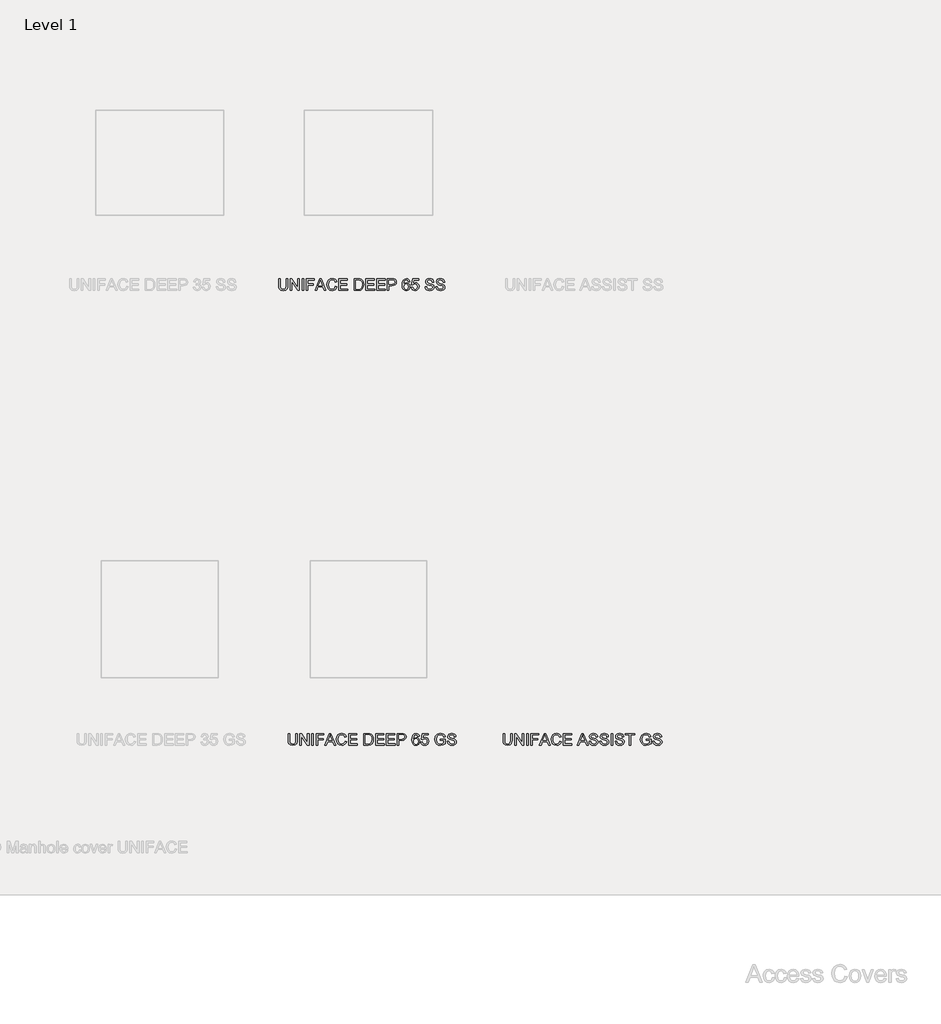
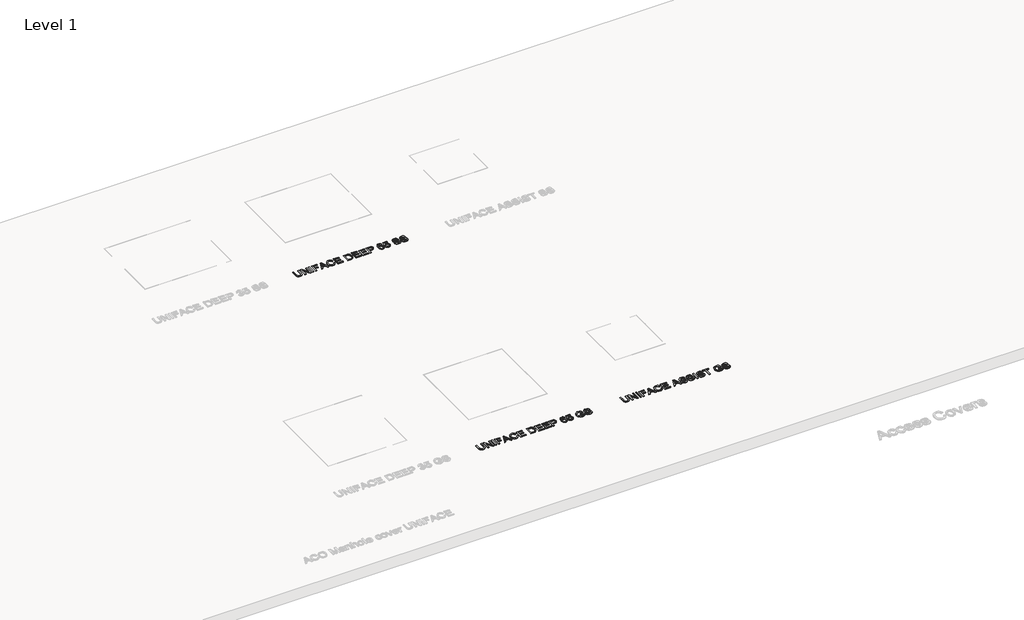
# One storey, part 6 of 9: 3 proxies.
"""IFC4 building model written with IfcOpenShell, lengths in millimetres."""

from ifc_helpers import new_model, si_unit, origin, origin_with_axes, place, context, project, spatial, polyline, outline, extrude, element, save

model = new_model("IFC4")

# Units and contexts
model_context = context("Model", 3, world=origin())
ifc_project = project(units=[si_unit("LENGTHUNIT", "METRE", prefix="MILLI")], contexts=[model_context])

# Site, building, storey
site = spatial("IfcSite", under=ifc_project)
building = spatial("IfcBuilding", under=site)
storey = spatial("IfcBuildingStorey", under=building, Name="Level 1", Elevation=0.0)

# Proxies
placement = place(None, origin())
element("IfcBuildingElementProxy", 1, Name="100mm ACO", ObjectType="100mm ACO", at=placement, inside=storey, context=model_context, shape_type="SweptSolid", body=[
    extrude(outline(polyline([(9234.888236, -15767.3956492), (9234.0442111, -15781.7586247), (9229.5621478, -15795.3212318), (9217.7457991, -15806.9338503), (9195.9466731, -15811.5759873), (9174.4967988, -15807.4577279), (9162.5494807, -15796.8055515), (9157.7036136, -15783.1992879), (9156.6558585, -15767.3956492), (9156.6558585, -15709.1288264), (9169.6945881, -15709.1288264), (9169.6945881, -15767.7449008), (9170.9897298, -15783.5048831), (9177.8146898, -15795.2630232), (9184.850656, -15799.1157058), (9194.898918, -15800.3999334), (9212.4342631, -15796.3107783), (9220.0741437, -15785.3821109), (9221.8495064, -15767.7449008), (9221.8495064, -15709.1288264), (9234.888236, -15709.1288264), (9234.888236, -15767.3956492)])), origin_with_axes(), (0.0, 0.0, 1.0), 10.0),
    extrude(outline(polyline([(9335.4727213, -15809.7133117), (9321.5026539, -15809.7133117), (9270.5410122, -15731.0152653), (9270.5410122, -15809.7133117), (9257.2403438, -15809.7133117), (9257.2403438, -15709.1288264), (9271.2395156, -15709.1288264), (9322.172053, -15787.7686641), (9322.172053, -15709.1288264), (9335.4727213, -15709.1288264), (9335.4727213, -15809.7133117)])), origin_with_axes(), (0.0, 0.0, 1.0), 10.0),
    extrude(outline(polyline([(9372.7262344, -15809.7133117), (9359.6875048, -15809.7133117), (9359.6875048, -15709.1288264), (9372.7262344, -15709.1288264), (9372.7262344, -15809.7133117)])), origin_with_axes(), (0.0, 0.0, 1.0), 10.0),
    extrude(outline(polyline([(9463.9973414, -15720.3048803), (9409.9797475, -15720.3048803), (9409.9797475, -15751.9703664), (9456.5466388, -15751.9703664), (9456.5466388, -15763.1464203), (9409.9797475, -15763.1464203), (9409.9797475, -15809.7133117), (9396.9410179, -15809.7133117), (9396.9410179, -15709.1288264), (9463.9973414, -15709.1288264), (9463.9973414, -15720.3048803)])), origin_with_axes(), (0.0, 0.0, 1.0), 10.0),
    extrude(outline(polyline([(9565.0474957, -15809.7133117), (9551.1647412, -15809.7133117), (9539.1155581, -15779.9105012), (9496.4195396, -15779.9105012), (9484.8360253, -15809.7133117), (9470.9823752, -15809.7133117), (9510.0694596, -15709.1288264), (9524.3305701, -15709.1288264), (9565.0474957, -15809.7133117)]), holes=[polyline([(9534.5752862, -15768.7344473), (9520.0667891, -15731.8592902), (9517.0835976, -15720.1302544), (9512.3978041, -15738.8152196), (9500.7851856, -15768.7344473), (9534.5752862, -15768.7344473)])]), origin_with_axes(), (0.0, 0.0, 1.0), 10.0),
    extrude(outline(polyline([(9659.5782851, -15777.6985739), (9653.6300924, -15792.6108932), (9644.4585976, -15803.1793947), (9632.6022305, -15809.4768392), (9618.5994207, -15811.5759873), (9597.5715589, -15807.6978384), (9583.1503747, -15796.0633916), (9574.8119907, -15778.9718873), (9572.0325294, -15758.7225656), (9575.2958498, -15737.2108447), (9585.0858111, -15720.9306229), (9600.0054065, -15710.6822687), (9618.6576293, -15707.2661507), (9632.0492487, -15709.0888079), (9643.3526339, -15714.5567796), (9652.0730119, -15723.5390964), (9657.7156095, -15735.9047889), (9644.6768799, -15738.9316368), (9634.7668633, -15723.5791148), (9618.1628561, -15718.4422046), (9603.8580892, -15721.1670954), (9593.4824037, -15729.3417676), (9587.1740451, -15742.1003683), (9585.071259, -15758.5770441), (9587.2977385, -15777.047365), (9593.9771769, -15790.0824565), (9604.2364452, -15797.8205642), (9617.202414, -15800.3999334), (9627.8327622, -15798.7737302), (9636.2657351, -15793.8951208), (9642.5013329, -15785.7495528), (9646.5395555, -15774.3224742), (9659.5782851, -15777.6985739)])), origin_with_axes(), (0.0, 0.0, 1.0), 10.0),
    extrude(outline(polyline([(9750.8493922, -15809.7133117), (9676.342366, -15809.7133117), (9676.342366, -15709.1288264), (9748.9867165, -15709.1288264), (9748.9867165, -15720.3048803), (9689.3810956, -15720.3048803), (9689.3810956, -15751.9703664), (9745.2613652, -15751.9703664), (9745.2613652, -15763.1464203), (9689.3810956, -15763.1464203), (9689.3810956, -15798.5372577), (9750.8493922, -15798.5372577), (9750.8493922, -15809.7133117)])), origin_with_axes(), (0.0, 0.0, 1.0), 10.0),
    extrude(outline(polyline([(9891.0157351, -15809.7133117), (9877.1329807, -15809.7133117), (9865.0837975, -15779.9105012), (9822.387779, -15779.9105012), (9810.8042648, -15809.7133117), (9796.9506146, -15809.7133117), (9836.037699, -15709.1288264), (9850.2988095, -15709.1288264), (9891.0157351, -15809.7133117)]), holes=[polyline([(9860.5435256, -15768.7344473), (9846.0350285, -15731.8592902), (9843.051837, -15720.1302544), (9838.3660436, -15738.8152196), (9826.7534251, -15768.7344473), (9860.5435256, -15768.7344473)])]), origin_with_axes(), (0.0, 0.0, 1.0), 10.0),
    extrude(outline(polyline([(9959.4690654, -15738.9316368), (9957.4463161, -15729.9857004), (9952.9497006, -15723.5791148), (9945.9792191, -15719.7264322), (9936.5348714, -15718.4422046), (9920.8185456, -15722.4440468), (9916.2782737, -15727.3590367), (9914.7648497, -15734.1003218), (9919.2614652, -15744.2140686), (9937.5535222, -15750.5442553), (9957.5045247, -15756.0595215), (9970.7324323, -15765.0382003), (9974.8579678, -15772.1614794), (9976.2331463, -15781.3657166), (9973.7119857, -15793.2730162), (9966.1485039, -15802.9756646), (9954.5322473, -15809.4259066), (9939.8527624, -15811.5759873), (9921.7644356, -15809.1894341), (9908.8857797, -15802.0297746), (9901.0276168, -15791.072003), (9898.0007688, -15777.2911136), (9911.0394984, -15776.1851499), (9913.6843523, -15787.1247313), (9919.9308642, -15794.6227284), (9928.818592, -15798.9556322), (9939.3870935, -15800.3999334), (9956.6168433, -15795.6413792), (9961.5500234, -15790.035162), (9963.1944167, -15782.733619), (9961.4954528, -15775.3629532), (9956.398561, -15770.3060799), (9932.984146, -15762.8117208), (9918.6902931, -15758.4460747), (9909.0458534, -15752.5379004), (9903.5560535, -15744.8652774), (9901.7261202, -15735.2062855), (9904.0217224, -15724.1466488), (9910.908529, -15715.1825222), (9921.7535215, -15709.2452436), (9935.923681, -15707.2661507), (9950.5704235, -15709.2597957), (9962.0302445, -15715.2407308), (9969.5828121, -15724.8888086), (9972.507795, -15737.8838818), (9959.4690654, -15738.9316368)])), origin_with_axes(), (0.0, 0.0, 1.0), 10.0),
    extrude(outline(polyline([(10052.6028481, -15738.9316368), (10050.5800988, -15729.9857004), (10046.0834833, -15723.5791148), (10039.1130018, -15719.7264322), (10029.6686541, -15718.4422046), (10013.9523283, -15722.4440468), (10009.4120564, -15727.3590367), (10007.8986324, -15734.1003218), (10012.3952479, -15744.2140686), (10030.6873049, -15750.5442553), (10050.6383074, -15756.0595215), (10063.866215, -15765.0382003), (10067.9917505, -15772.1614794), (10069.366929, -15781.3657166), (10066.8457684, -15793.2730162), (10059.2822866, -15802.9756646), (10047.66603, -15809.4259066), (10032.9865451, -15811.5759873), (10014.8982183, -15809.1894341), (10002.0195624, -15802.0297746), (9994.1613995, -15791.072003), (9991.1345515, -15777.2911136), (10004.1732811, -15776.1851499), (10006.818135, -15787.1247313), (10013.0646469, -15794.6227284), (10021.9523747, -15798.9556322), (10032.5208762, -15800.3999334), (10049.750626, -15795.6413792), (10054.6838061, -15790.035162), (10056.3281994, -15782.733619), (10054.6292355, -15775.3629532), (10049.5323437, -15770.3060799), (10026.1179287, -15762.8117208), (10011.8240759, -15758.4460747), (10002.1796361, -15752.5379004), (9996.6898362, -15744.8652774), (9994.8599029, -15735.2062855), (9997.1555051, -15724.1466488), (10004.0423117, -15715.1825222), (10014.8873042, -15709.2452436), (10029.0574637, -15707.2661507), (10043.7042062, -15709.2597957), (10055.1640272, -15715.2407308), (10062.7165948, -15724.8888086), (10065.6415777, -15737.8838818), (10052.6028481, -15738.9316368)])), origin_with_axes(), (0.0, 0.0, 1.0), 10.0),
    extrude(outline(polyline([(10102.8950908, -15809.7133117), (10089.8563612, -15809.7133117), (10089.8563612, -15709.1288264), (10102.8950908, -15709.1288264), (10102.8950908, -15809.7133117)])), origin_with_axes(), (0.0, 0.0, 1.0), 10.0),
    extrude(outline(polyline([(10184.8528196, -15738.9316368), (10182.8300702, -15729.9857004), (10178.3334548, -15723.5791148), (10171.3629732, -15719.7264322), (10161.9186256, -15718.4422046), (10146.2022997, -15722.4440468), (10141.6620278, -15727.3590367), (10140.1486039, -15734.1003218), (10144.6452193, -15744.2140686), (10162.9372763, -15750.5442553), (10182.8882788, -15756.0595215), (10196.1161864, -15765.0382003), (10200.2417219, -15772.1614794), (10201.6169005, -15781.3657166), (10199.0957399, -15793.2730162), (10191.532258, -15802.9756646), (10179.9160015, -15809.4259066), (10165.2365166, -15811.5759873), (10147.1481897, -15809.1894341), (10134.2695338, -15802.0297746), (10126.4113709, -15791.072003), (10123.384523, -15777.2911136), (10136.4232526, -15776.1851499), (10139.0681065, -15787.1247313), (10145.3146184, -15794.6227284), (10154.2023462, -15798.9556322), (10164.7708477, -15800.3999334), (10182.0005975, -15795.6413792), (10186.9337775, -15790.035162), (10188.5781709, -15782.733619), (10186.879207, -15775.3629532), (10181.7823152, -15770.3060799), (10158.3679001, -15762.8117208), (10144.0740473, -15758.4460747), (10134.4296075, -15752.5379004), (10128.9398076, -15744.8652774), (10127.1098743, -15735.2062855), (10129.4054765, -15724.1466488), (10136.2922832, -15715.1825222), (10147.1372756, -15709.2452436), (10161.3074351, -15707.2661507), (10175.9541777, -15709.2597957), (10187.4139986, -15715.2407308), (10194.9665663, -15724.8888086), (10197.8915491, -15737.8838818), (10184.8528196, -15738.9316368)])), origin_with_axes(), (0.0, 0.0, 1.0), 10.0),
    extrude(outline(polyline([(10291.0253319, -15720.3048803), (10257.4971701, -15720.3048803), (10257.4971701, -15809.7133117), (10244.4584405, -15809.7133117), (10244.4584405, -15720.3048803), (10210.9302787, -15720.3048803), (10210.9302787, -15709.1288264), (10291.0253319, -15709.1288264), (10291.0253319, -15720.3048803)])), origin_with_axes(), (0.0, 0.0, 1.0), 10.0),
    extrude(outline(polyline([(10432.5886816, -15796.2962261), (10413.0669676, -15807.756047), (10391.8135473, -15811.5759873), (10371.313201, -15808.039814), (10355.2148811, -15797.4312941), (10344.7919012, -15780.9582563), (10341.3175745, -15759.8285293), (10346.9783622, -15733.168984), (10353.9815861, -15722.2184885), (10363.6696824, -15714.0474542), (10375.9298717, -15708.9614766), (10390.649375, -15707.2661507), (10405.5726085, -15709.1506546), (10417.2216074, -15714.8041662), (10425.6036479, -15724.2194096), (10430.7260059, -15737.3891085), (10417.6872763, -15740.7943125), (10413.9073544, -15731.0334555), (10407.9809899, -15724.0447837), (10399.9081827, -15719.8428494), (10389.6889329, -15718.4422046), (10374.3400489, -15721.2653224), (10363.2767742, -15729.7346758), (10356.5864216, -15742.7734054), (10354.3563041, -15759.3046518), (10358.7656066, -15782.0496678), (10371.8479927, -15795.7577964), (10390.7075836, -15800.3999334), (10405.6599214, -15797.5768156), (10419.549952, -15789.1074622), (10419.549952, -15768.7344473), (10389.7471415, -15768.7344473), (10389.7471415, -15757.5583934), (10432.5886816, -15757.5583934), (10432.5886816, -15796.2962261)])), origin_with_axes(), (0.0, 0.0, 1.0), 10.0),
    extrude(outline(polyline([(10510.821059, -15738.9316368), (10508.7983097, -15729.9857004), (10504.3016942, -15723.5791148), (10497.3312127, -15719.7264322), (10487.886865, -15718.4422046), (10472.1705392, -15722.4440468), (10467.6302673, -15727.3590367), (10466.1168433, -15734.1003218), (10470.6134588, -15744.2140686), (10488.9055158, -15750.5442553), (10508.8565183, -15756.0595215), (10522.0844259, -15765.0382003), (10526.2099614, -15772.1614794), (10527.5851399, -15781.3657166), (10525.0639793, -15793.2730162), (10517.5004975, -15802.9756646), (10505.8842409, -15809.4259066), (10491.204756, -15811.5759873), (10473.1164292, -15809.1894341), (10460.2377733, -15802.0297746), (10452.3796104, -15791.072003), (10449.3527624, -15777.2911136), (10462.391492, -15776.1851499), (10465.0363459, -15787.1247313), (10471.2828578, -15794.6227284), (10480.1705856, -15798.9556322), (10490.7390871, -15800.3999334), (10507.9688369, -15795.6413792), (10512.902017, -15790.035162), (10514.5464103, -15782.733619), (10512.8474464, -15775.3629532), (10507.7505546, -15770.3060799), (10484.3361396, -15762.8117208), (10470.0422868, -15758.4460747), (10460.397847, -15752.5379004), (10454.9080471, -15744.8652774), (10453.0781138, -15735.2062855), (10455.373716, -15724.1466488), (10462.2605226, -15715.1825222), (10473.1055151, -15709.2452436), (10487.2756746, -15707.2661507), (10501.9224171, -15709.2597957), (10513.3822381, -15715.2407308), (10520.9348057, -15724.8888086), (10523.8597886, -15737.8838818), (10510.821059, -15738.9316368)])), origin_with_axes(), (0.0, 0.0, 1.0), 10.0),
])
element("IfcBuildingElementProxy", 2, Name="100mm ACO", ObjectType="100mm ACO", at=placement, inside=storey, context=model_context, shape_type="SweptSolid", body=[
    extrude(outline(polyline([(7300.2115281, -11847.3956492), (7299.3675032, -11861.7586247), (7294.8854399, -11875.3212318), (7283.0690912, -11886.9338503), (7261.2699652, -11891.5759873), (7239.8200909, -11887.4577279), (7227.8727728, -11876.8055515), (7223.0269057, -11863.1992879), (7221.9791507, -11847.3956492), (7221.9791507, -11789.1288264), (7235.0178802, -11789.1288264), (7235.0178802, -11847.7449008), (7236.3130219, -11863.5048831), (7243.1379819, -11875.2630232), (7250.1739482, -11879.1157058), (7260.2222102, -11880.3999334), (7277.7575552, -11876.3107783), (7285.3974358, -11865.3821109), (7287.1727985, -11847.7449008), (7287.1727985, -11789.1288264), (7300.2115281, -11789.1288264), (7300.2115281, -11847.3956492)])), origin_with_axes(), (0.0, 0.0, 1.0), 10.0),
    extrude(outline(polyline([(7400.7960134, -11889.7133117), (7386.825946, -11889.7133117), (7335.8643043, -11811.0152653), (7335.8643043, -11889.7133117), (7322.563636, -11889.7133117), (7322.563636, -11789.1288264), (7336.5628077, -11789.1288264), (7387.4953451, -11867.7686641), (7387.4953451, -11789.1288264), (7400.7960134, -11789.1288264), (7400.7960134, -11889.7133117)])), origin_with_axes(), (0.0, 0.0, 1.0), 10.0),
    extrude(outline(polyline([(7438.0495265, -11889.7133117), (7425.010797, -11889.7133117), (7425.010797, -11789.1288264), (7438.0495265, -11789.1288264), (7438.0495265, -11889.7133117)])), origin_with_axes(), (0.0, 0.0, 1.0), 10.0),
    extrude(outline(polyline([(7529.3206336, -11800.3048803), (7475.3030396, -11800.3048803), (7475.3030396, -11831.9703664), (7521.869931, -11831.9703664), (7521.869931, -11843.1464203), (7475.3030396, -11843.1464203), (7475.3030396, -11889.7133117), (7462.26431, -11889.7133117), (7462.26431, -11789.1288264), (7529.3206336, -11789.1288264), (7529.3206336, -11800.3048803)])), origin_with_axes(), (0.0, 0.0, 1.0), 10.0),
    extrude(outline(polyline([(7630.3707878, -11889.7133117), (7616.4880333, -11889.7133117), (7604.4388502, -11859.9105012), (7561.7428317, -11859.9105012), (7550.1593175, -11889.7133117), (7536.3056673, -11889.7133117), (7575.3927517, -11789.1288264), (7589.6538622, -11789.1288264), (7630.3707878, -11889.7133117)]), holes=[polyline([(7599.8985783, -11848.7344473), (7585.3900812, -11811.8592902), (7582.4068897, -11800.1302544), (7577.7210963, -11818.8152196), (7566.1084777, -11848.7344473), (7599.8985783, -11848.7344473)])]), origin_with_axes(), (0.0, 0.0, 1.0), 10.0),
    extrude(outline(polyline([(7724.9015773, -11857.6985739), (7718.9533845, -11872.6108932), (7709.7818897, -11883.1793947), (7697.9255226, -11889.4768392), (7683.9227129, -11891.5759873), (7662.894851, -11887.6978384), (7648.4736668, -11876.0633916), (7640.1352828, -11858.9718873), (7637.3558215, -11838.7225656), (7640.6191419, -11817.2108447), (7650.4091032, -11800.9306229), (7665.3286987, -11790.6822687), (7683.9809215, -11787.2661507), (7697.3725408, -11789.0888079), (7708.675926, -11794.5567796), (7717.3963041, -11803.5390964), (7723.0389016, -11815.9047889), (7710.000172, -11818.9316368), (7700.0901555, -11803.5791148), (7683.4861483, -11798.4422046), (7669.1813813, -11801.1670954), (7658.8056958, -11809.3417676), (7652.4973373, -11822.1003683), (7650.3945511, -11838.5770441), (7652.6210306, -11857.047365), (7659.3004691, -11870.0824565), (7669.5597373, -11877.8205642), (7682.5257061, -11880.3999334), (7693.1560543, -11878.7737302), (7701.5890273, -11873.8951208), (7707.8246251, -11865.7495528), (7711.8628477, -11854.3224742), (7724.9015773, -11857.6985739)])), origin_with_axes(), (0.0, 0.0, 1.0), 10.0),
    extrude(outline(polyline([(7816.1726843, -11889.7133117), (7741.6656581, -11889.7133117), (7741.6656581, -11789.1288264), (7814.3100086, -11789.1288264), (7814.3100086, -11800.3048803), (7754.7043877, -11800.3048803), (7754.7043877, -11831.9703664), (7810.5846573, -11831.9703664), (7810.5846573, -11843.1464203), (7754.7043877, -11843.1464203), (7754.7043877, -11878.5372577), (7816.1726843, -11878.5372577), (7816.1726843, -11889.7133117)])), origin_with_axes(), (0.0, 0.0, 1.0), 10.0),
    extrude(outline(polyline([(7873.9156296, -11789.1288264), (7908.1422947, -11789.1288264), (7923.6257861, -11790.0601642), (7936.0242209, -11794.5858839), (7946.3708021, -11804.4959005), (7953.3412836, -11819.0043976), (7955.8733584, -11838.8680872), (7953.2685229, -11859.1210469), (7945.4540164, -11875.4085447), (7931.2874949, -11886.1371199), (7909.6266144, -11889.7133117), (7873.9156296, -11889.7133117), (7873.9156296, -11789.1288264)]), holes=[polyline([(7886.9543592, -11878.5372577), (7908.4042335, -11878.5372577), (7920.1187171, -11877.6932328), (7930.5817155, -11873.1384088), (7939.3566641, -11860.9728084), (7942.8346288, -11838.5770441), (7941.4958307, -11824.1995164), (7936.5772028, -11812.0193639), (7928.355236, -11803.972023), (7919.3037965, -11800.8578621), (7907.9967732, -11800.3048803), (7886.9543592, -11800.3048803), (7886.9543592, -11878.5372577)])]), origin_with_axes(), (0.0, 0.0, 1.0), 10.0),
    extrude(outline(polyline([(8049.0071411, -11889.7133117), (7974.5001149, -11889.7133117), (7974.5001149, -11789.1288264), (8047.1444654, -11789.1288264), (8047.1444654, -11800.3048803), (7987.5388445, -11800.3048803), (7987.5388445, -11831.9703664), (8043.4191141, -11831.9703664), (8043.4191141, -11843.1464203), (7987.5388445, -11843.1464203), (7987.5388445, -11878.5372577), (8049.0071411, -11878.5372577), (8049.0071411, -11889.7133117)])), origin_with_axes(), (0.0, 0.0, 1.0), 10.0),
    extrude(outline(polyline([(8142.1409238, -11889.7133117), (8067.6338976, -11889.7133117), (8067.6338976, -11789.1288264), (8140.2782481, -11789.1288264), (8140.2782481, -11800.3048803), (8080.6726272, -11800.3048803), (8080.6726272, -11831.9703664), (8136.5528968, -11831.9703664), (8136.5528968, -11843.1464203), (8080.6726272, -11843.1464203), (8080.6726272, -11878.5372577), (8142.1409238, -11878.5372577), (8142.1409238, -11889.7133117)])), origin_with_axes(), (0.0, 0.0, 1.0), 10.0),
    extrude(outline(polyline([(8160.7676803, -11789.1288264), (8198.5450709, -11789.1288264), (8213.9412494, -11790.0165077), (8225.9322239, -11794.6295404), (8234.2997122, -11804.7432871), (8237.1373821, -11818.1167162), (8234.8999885, -11830.6206542), (8228.1878077, -11840.366959), (8216.5424468, -11846.6425752), (8199.505513, -11848.7344473), (8173.8064099, -11848.7344473), (8173.8064099, -11889.7133117), (8160.7676803, -11889.7133117), (8160.7676803, -11789.1288264)]), holes=[polyline([(8173.8064099, -11837.5583934), (8200.0293906, -11837.5583934), (8218.0813371, -11832.7925631), (8222.5943237, -11826.8352752), (8224.0986525, -11818.4950722), (8220.9699395, -11807.4499877), (8213.2864025, -11801.4836047), (8199.7383475, -11800.3048803), (8173.8064099, -11800.3048803), (8173.8064099, -11837.5583934)])]), origin_with_axes(), (0.0, 0.0, 1.0), 10.0),
    extrude(outline(polyline([(8300.337385, -11837.8494364), (8310.8076595, -11827.8521069), (8324.7704508, -11824.5196638), (8336.2157195, -11826.8079899), (8345.8128648, -11833.6729684), (8352.3176774, -11844.0959483), (8354.4859483, -11857.0582791), (8352.3104014, -11870.3589475), (8345.7837605, -11881.5058971), (8335.6481856, -11889.0584648), (8322.6458364, -11891.5759873), (8309.1123336, -11888.9093052), (8297.7325495, -11880.9092588), (8290.005356, -11866.0842523), (8287.4296248, -11842.9426902), (8289.7579693, -11819.4627904), (8296.7430031, -11802.6332248), (8308.1373393, -11792.504926), (8323.6935914, -11789.1288264), (8334.2257126, -11790.704097), (8343.0042992, -11795.4299088), (8349.3599522, -11803.2480533), (8352.6232727, -11814.1003218), (8339.5845431, -11815.2062855), (8333.7418534, -11802.6332248), (8322.8495665, -11798.4422046), (8314.2165014, -11800.8142056), (8306.8858541, -11807.9302087), (8301.8762752, -11820.1540177), (8300.337385, -11837.8494364)]), holes=[polyline([(8322.5294191, -11882.2626091), (8330.1692997, -11880.454504), (8336.2084435, -11875.0301887), (8341.4472187, -11857.5530523), (8336.2084435, -11840.556137), (8330.0674347, -11835.5138158), (8322.1219588, -11833.833042), (8314.5912194, -11835.4155887), (8308.1809957, -11840.1632288), (8303.7935214, -11847.4938762), (8302.33103, -11856.8254447), (8303.7680552, -11866.5899397), (8308.0791307, -11874.8119064), (8314.5657531, -11880.3999334), (8322.5294191, -11882.2626091)])]), origin_with_axes(), (0.0, 0.0, 1.0), 10.0),
    extrude(outline(polyline([(8383.2410037, -11827.2263643), (8402.0132818, -11822.6569881), (8413.5640537, -11824.8943817), (8423.5359169, -11831.6065626), (8430.4227236, -11842.0440947), (8432.7183258, -11855.4575422), (8430.3354107, -11869.3766771), (8423.1866652, -11881.0402282), (8412.174323, -11888.9420475), (8398.2006176, -11891.5759873), (8386.391545, -11889.7569681), (8376.2850743, -11884.2999105), (8369.0017215, -11875.2775754), (8365.6620023, -11862.7627233), (8378.7007318, -11861.7731769), (8385.5111397, -11877.1839075), (8398.3461391, -11882.2626091), (8406.961014, -11880.3781052), (8413.7714219, -11874.7245935), (8418.2025526, -11866.3134488), (8419.6795962, -11856.1560456), (8418.1989146, -11846.1296118), (8413.7568697, -11838.4606269), (8406.9864803, -11833.5929315), (8398.520765, -11831.9703664), (8388.1232513, -11834.3350913), (8380.4469903, -11841.4292662), (8367.5246779, -11839.9158422), (8377.2746208, -11790.991502), (8428.9929745, -11790.991502), (8428.9929745, -11800.3048803), (8388.6253005, -11800.3048803), (8383.2410037, -11827.2263643)])), origin_with_axes(), (0.0, 0.0, 1.0), 10.0),
    extrude(outline(polyline([(8546.3415407, -11818.9316368), (8544.3187914, -11809.9857004), (8539.8221759, -11803.5791148), (8532.8516944, -11799.7264322), (8523.4073467, -11798.4422046), (8507.6910209, -11802.4440468), (8503.150749, -11807.3590367), (8501.637325, -11814.1003218), (8506.1339404, -11824.2140686), (8524.4259975, -11830.5442553), (8544.377, -11836.0595215), (8557.6049075, -11845.0382003), (8561.7304431, -11852.1614794), (8563.1056216, -11861.3657166), (8560.584461, -11873.2730162), (8553.0209792, -11882.9756646), (8541.4047226, -11889.4259066), (8526.7252377, -11891.5759873), (8508.6369109, -11889.1894341), (8495.758255, -11882.0297746), (8487.900092, -11871.072003), (8484.8732441, -11857.2911136), (8497.9119737, -11856.1851499), (8500.5568276, -11867.1247313), (8506.8033395, -11874.6227284), (8515.6910673, -11878.9556322), (8526.2595688, -11880.3999334), (8543.4893186, -11875.6413792), (8548.4224987, -11870.035162), (8550.066892, -11862.733619), (8548.3679281, -11855.3629532), (8543.2710363, -11850.3060799), (8519.8566212, -11842.8117208), (8505.5627684, -11838.4460747), (8495.9183287, -11832.5379004), (8490.4285287, -11824.8652774), (8488.5985954, -11815.2062855), (8490.8941976, -11804.1466488), (8497.7810043, -11795.1825222), (8508.6259967, -11789.2452436), (8522.7961563, -11787.2661507), (8537.4428988, -11789.2597957), (8548.9027197, -11795.2407308), (8556.4552874, -11804.8888086), (8559.3802703, -11817.8838818), (8546.3415407, -11818.9316368)])), origin_with_axes(), (0.0, 0.0, 1.0), 10.0),
    extrude(outline(polyline([(8639.4753234, -11818.9316368), (8637.4525741, -11809.9857004), (8632.9559586, -11803.5791148), (8625.9854771, -11799.7264322), (8616.5411294, -11798.4422046), (8600.8248036, -11802.4440468), (8596.2845317, -11807.3590367), (8594.7711077, -11814.1003218), (8599.2677231, -11824.2140686), (8617.5597802, -11830.5442553), (8637.5107827, -11836.0595215), (8650.7386902, -11845.0382003), (8654.8642258, -11852.1614794), (8656.2394043, -11861.3657166), (8653.7182437, -11873.2730162), (8646.1547619, -11882.9756646), (8634.5385053, -11889.4259066), (8619.8590204, -11891.5759873), (8601.7706936, -11889.1894341), (8588.8920377, -11882.0297746), (8581.0338748, -11871.072003), (8578.0070268, -11857.2911136), (8591.0457564, -11856.1851499), (8593.6906103, -11867.1247313), (8599.9371222, -11874.6227284), (8608.82485, -11878.9556322), (8619.3933515, -11880.3999334), (8636.6231013, -11875.6413792), (8641.5562814, -11870.035162), (8643.2006747, -11862.733619), (8641.5017108, -11855.3629532), (8636.404819, -11850.3060799), (8612.9904039, -11842.8117208), (8598.6965511, -11838.4460747), (8589.0521114, -11832.5379004), (8583.5623114, -11824.8652774), (8581.7323781, -11815.2062855), (8584.0279803, -11804.1466488), (8590.914787, -11795.1825222), (8601.7597794, -11789.2452436), (8615.929939, -11787.2661507), (8630.5766815, -11789.2597957), (8642.0365024, -11795.2407308), (8649.5890701, -11804.8888086), (8652.514053, -11817.8838818), (8639.4753234, -11818.9316368)])), origin_with_axes(), (0.0, 0.0, 1.0), 10.0),
])
element("IfcBuildingElementProxy", 3, Name="100mm ACO", ObjectType="100mm ACO", at=placement, inside=storey, context=model_context, shape_type="SweptSolid", body=[
    extrude(outline(polyline([(7383.7963162, -15767.3956492), (7382.9522913, -15781.7586247), (7378.470228, -15795.3212318), (7366.6538793, -15806.9338503), (7344.8547533, -15811.5759873), (7323.4048789, -15807.4577279), (7311.4575609, -15796.8055515), (7306.6116937, -15783.1992879), (7305.5639387, -15767.3956492), (7305.5639387, -15709.1288264), (7318.6026683, -15709.1288264), (7318.6026683, -15767.7449008), (7319.8978099, -15783.5048831), (7326.7227699, -15795.2630232), (7333.7587362, -15799.1157058), (7343.8069982, -15800.3999334), (7361.3423432, -15796.3107783), (7368.9822238, -15785.3821109), (7370.7575866, -15767.7449008), (7370.7575866, -15709.1288264), (7383.7963162, -15709.1288264), (7383.7963162, -15767.3956492)])), origin_with_axes(), (0.0, 0.0, 1.0), 10.0),
    extrude(outline(polyline([(7484.3808015, -15809.7133117), (7470.4107341, -15809.7133117), (7419.4490923, -15731.0152653), (7419.4490923, -15809.7133117), (7406.148424, -15809.7133117), (7406.148424, -15709.1288264), (7420.1475957, -15709.1288264), (7471.0801331, -15787.7686641), (7471.0801331, -15709.1288264), (7484.3808015, -15709.1288264), (7484.3808015, -15809.7133117)])), origin_with_axes(), (0.0, 0.0, 1.0), 10.0),
    extrude(outline(polyline([(7521.6343146, -15809.7133117), (7508.595585, -15809.7133117), (7508.595585, -15709.1288264), (7521.6343146, -15709.1288264), (7521.6343146, -15809.7133117)])), origin_with_axes(), (0.0, 0.0, 1.0), 10.0),
    extrude(outline(polyline([(7612.9054216, -15720.3048803), (7558.8878276, -15720.3048803), (7558.8878276, -15751.9703664), (7605.454719, -15751.9703664), (7605.454719, -15763.1464203), (7558.8878276, -15763.1464203), (7558.8878276, -15809.7133117), (7545.8490981, -15809.7133117), (7545.8490981, -15709.1288264), (7612.9054216, -15709.1288264), (7612.9054216, -15720.3048803)])), origin_with_axes(), (0.0, 0.0, 1.0), 10.0),
    extrude(outline(polyline([(7713.9555758, -15809.7133117), (7700.0728214, -15809.7133117), (7688.0236382, -15779.9105012), (7645.3276197, -15779.9105012), (7633.7441055, -15809.7133117), (7619.8904553, -15809.7133117), (7658.9775397, -15709.1288264), (7673.2386502, -15709.1288264), (7713.9555758, -15809.7133117)]), holes=[polyline([(7683.4833663, -15768.7344473), (7668.9748692, -15731.8592902), (7665.9916777, -15720.1302544), (7661.3058843, -15738.8152196), (7649.6932658, -15768.7344473), (7683.4833663, -15768.7344473)])]), origin_with_axes(), (0.0, 0.0, 1.0), 10.0),
    extrude(outline(polyline([(7808.4863653, -15777.6985739), (7802.5381725, -15792.6108932), (7793.3666777, -15803.1793947), (7781.5103106, -15809.4768392), (7767.5075009, -15811.5759873), (7746.479639, -15807.6978384), (7732.0584549, -15796.0633916), (7723.7200709, -15778.9718873), (7720.9406095, -15758.7225656), (7724.20393, -15737.2108447), (7733.9938913, -15720.9306229), (7748.9134867, -15710.6822687), (7767.5657095, -15707.2661507), (7780.9573288, -15709.0888079), (7792.2607141, -15714.5567796), (7800.9810921, -15723.5390964), (7806.6236896, -15735.9047889), (7793.5849601, -15738.9316368), (7783.6749435, -15723.5791148), (7767.0709363, -15718.4422046), (7752.7661694, -15721.1670954), (7742.3904839, -15729.3417676), (7736.0821253, -15742.1003683), (7733.9793391, -15758.5770441), (7736.2058186, -15777.047365), (7742.8852571, -15790.0824565), (7753.1445253, -15797.8205642), (7766.1104942, -15800.3999334), (7776.7408423, -15798.7737302), (7785.1738153, -15793.8951208), (7791.4094131, -15785.7495528), (7795.4476357, -15774.3224742), (7808.4863653, -15777.6985739)])), origin_with_axes(), (0.0, 0.0, 1.0), 10.0),
    extrude(outline(polyline([(7899.7574723, -15809.7133117), (7825.2504462, -15809.7133117), (7825.2504462, -15709.1288264), (7897.8947967, -15709.1288264), (7897.8947967, -15720.3048803), (7838.2891757, -15720.3048803), (7838.2891757, -15751.9703664), (7894.1694454, -15751.9703664), (7894.1694454, -15763.1464203), (7838.2891757, -15763.1464203), (7838.2891757, -15798.5372577), (7899.7574723, -15798.5372577), (7899.7574723, -15809.7133117)])), origin_with_axes(), (0.0, 0.0, 1.0), 10.0),
    extrude(outline(polyline([(7957.5004176, -15709.1288264), (7991.7270828, -15709.1288264), (8007.2105741, -15710.0601642), (8019.6090089, -15714.5858839), (8029.9555901, -15724.4959005), (8036.9260717, -15739.0043976), (8039.4581464, -15758.8680872), (8036.8533109, -15779.1210469), (8029.0388044, -15795.4085447), (8014.872283, -15806.1371199), (7993.2114024, -15809.7133117), (7957.5004176, -15809.7133117), (7957.5004176, -15709.1288264)]), holes=[polyline([(7970.5391472, -15798.5372577), (7991.9890215, -15798.5372577), (8003.7035051, -15797.6932328), (8014.1665035, -15793.1384088), (8022.9414521, -15780.9728084), (8026.4194168, -15758.5770441), (8025.0806187, -15744.1995164), (8020.1619908, -15732.0193639), (8011.940024, -15723.972023), (8002.8885845, -15720.8578621), (7991.5815612, -15720.3048803), (7970.5391472, -15720.3048803), (7970.5391472, -15798.5372577)])]), origin_with_axes(), (0.0, 0.0, 1.0), 10.0),
    extrude(outline(polyline([(8132.5919291, -15809.7133117), (8058.0849029, -15809.7133117), (8058.0849029, -15709.1288264), (8130.7292534, -15709.1288264), (8130.7292534, -15720.3048803), (8071.1236325, -15720.3048803), (8071.1236325, -15751.9703664), (8127.0039021, -15751.9703664), (8127.0039021, -15763.1464203), (8071.1236325, -15763.1464203), (8071.1236325, -15798.5372577), (8132.5919291, -15798.5372577), (8132.5919291, -15809.7133117)])), origin_with_axes(), (0.0, 0.0, 1.0), 10.0),
    extrude(outline(polyline([(8225.7257118, -15809.7133117), (8151.2186856, -15809.7133117), (8151.2186856, -15709.1288264), (8223.8630361, -15709.1288264), (8223.8630361, -15720.3048803), (8164.2574152, -15720.3048803), (8164.2574152, -15751.9703664), (8220.1376848, -15751.9703664), (8220.1376848, -15763.1464203), (8164.2574152, -15763.1464203), (8164.2574152, -15798.5372577), (8225.7257118, -15798.5372577), (8225.7257118, -15809.7133117)])), origin_with_axes(), (0.0, 0.0, 1.0), 10.0),
    extrude(outline(polyline([(8244.3524683, -15709.1288264), (8282.1298589, -15709.1288264), (8297.5260374, -15710.0165077), (8309.5170119, -15714.6295404), (8317.8845002, -15724.7432871), (8320.7221702, -15738.1167162), (8318.4847765, -15750.6206542), (8311.7725957, -15760.366959), (8300.1272348, -15766.6425752), (8283.0903011, -15768.7344473), (8257.3911979, -15768.7344473), (8257.3911979, -15809.7133117), (8244.3524683, -15809.7133117), (8244.3524683, -15709.1288264)]), holes=[polyline([(8257.3911979, -15757.5583934), (8283.6141786, -15757.5583934), (8301.6661251, -15752.7925631), (8306.1791117, -15746.8352752), (8307.6834406, -15738.4950722), (8304.5547276, -15727.4499877), (8296.8711905, -15721.4836047), (8283.3231355, -15720.3048803), (8257.3911979, -15720.3048803), (8257.3911979, -15757.5583934)])]), origin_with_axes(), (0.0, 0.0, 1.0), 10.0),
    extrude(outline(polyline([(8383.922173, -15757.8494364), (8394.3924475, -15747.8521069), (8408.3552388, -15744.5196638), (8419.8005076, -15746.8079899), (8429.3976528, -15753.6729684), (8435.9024655, -15764.0959483), (8438.0707364, -15777.0582791), (8435.8951894, -15790.3589475), (8429.3685485, -15801.5058971), (8419.2329736, -15809.0584648), (8406.2306244, -15811.5759873), (8392.6971216, -15808.9093052), (8381.3173375, -15800.9092588), (8373.590144, -15786.0842523), (8371.0144128, -15762.9426902), (8373.3427574, -15739.4627904), (8380.3277911, -15722.6332248), (8391.7221273, -15712.504926), (8407.2783795, -15709.1288264), (8417.8105006, -15710.704097), (8426.5890872, -15715.4299088), (8432.9447403, -15723.2480533), (8436.2080607, -15734.1003218), (8423.1693311, -15735.2062855), (8417.3266415, -15722.6332248), (8406.4343545, -15718.4422046), (8397.8012895, -15720.8142056), (8390.4706421, -15727.9302087), (8385.4610632, -15740.1540177), (8383.922173, -15757.8494364)]), holes=[polyline([(8406.1142072, -15802.2626091), (8413.7540878, -15800.454504), (8419.7932315, -15795.0301887), (8425.0320068, -15777.5530523), (8419.7932315, -15760.556137), (8413.6522227, -15755.5138158), (8405.7067469, -15753.833042), (8398.1760074, -15755.4155887), (8391.7657838, -15760.1632288), (8387.3783095, -15767.4938762), (8385.915818, -15776.8254447), (8387.3528432, -15786.5899397), (8391.6639187, -15794.8119064), (8398.1505411, -15800.3999334), (8406.1142072, -15802.2626091)])]), origin_with_axes(), (0.0, 0.0, 1.0), 10.0),
    extrude(outline(polyline([(8466.8257918, -15747.2263643), (8485.5980698, -15742.6569881), (8497.1488417, -15744.8943817), (8507.1207049, -15751.6065626), (8514.0075116, -15762.0440947), (8516.3031138, -15775.4575422), (8513.9201987, -15789.3766771), (8506.7714533, -15801.0402282), (8495.7591111, -15808.9420475), (8481.7854056, -15811.5759873), (8469.976333, -15809.7569681), (8459.8698624, -15804.2999106), (8452.5865095, -15795.2775754), (8449.2467903, -15782.7627233), (8462.2855199, -15781.7731769), (8469.0959277, -15797.1839075), (8481.9309271, -15802.2626091), (8490.545802, -15800.3781052), (8497.3562099, -15794.7245935), (8501.7873407, -15786.3134488), (8503.2643842, -15776.1560456), (8501.7837026, -15766.1296118), (8497.3416578, -15758.4606269), (8490.5712683, -15753.5929315), (8482.105553, -15751.9703664), (8471.7080393, -15754.3350913), (8464.0317783, -15761.4292662), (8451.1094659, -15759.9158422), (8460.8594088, -15710.991502), (8512.5777625, -15710.991502), (8512.5777625, -15720.3048803), (8472.2100886, -15720.3048803), (8466.8257918, -15747.2263643)])), origin_with_axes(), (0.0, 0.0, 1.0), 10.0),
    extrude(outline(polyline([(8659.7291392, -15796.2962261), (8640.2074252, -15807.756047), (8618.954005, -15811.5759873), (8598.4536586, -15808.039814), (8582.3553388, -15797.4312941), (8571.9323588, -15780.9582563), (8568.4580321, -15759.8285293), (8574.1188199, -15733.168984), (8581.1220438, -15722.2184885), (8590.81014, -15714.0474542), (8603.0703294, -15708.9614766), (8617.7898327, -15707.2661507), (8632.7130661, -15709.1506546), (8644.362065, -15714.8041662), (8652.7441055, -15724.2194096), (8657.8664635, -15737.3891085), (8644.827734, -15740.7943125), (8641.0478121, -15731.0334555), (8635.1214475, -15724.0447837), (8627.0486404, -15719.8428494), (8616.8293905, -15718.4422046), (8601.4805066, -15721.2653224), (8590.4172318, -15729.7346758), (8583.7268793, -15742.7734054), (8581.4967617, -15759.3046518), (8585.9060642, -15782.0496678), (8598.9884503, -15795.7577964), (8617.8480413, -15800.3999334), (8632.8003791, -15797.5768156), (8646.6904096, -15789.1074622), (8646.6904096, -15768.7344473), (8616.8875991, -15768.7344473), (8616.8875991, -15757.5583934), (8659.7291392, -15757.5583934), (8659.7291392, -15796.2962261)])), origin_with_axes(), (0.0, 0.0, 1.0), 10.0),
    extrude(outline(polyline([(8737.9615167, -15738.9316368), (8735.9387673, -15729.9857004), (8731.4421519, -15723.5791148), (8724.4716703, -15719.7264322), (8715.0273227, -15718.4422046), (8699.3109968, -15722.4440468), (8694.7707249, -15727.3590367), (8693.257301, -15734.1003218), (8697.7539164, -15744.2140686), (8716.0459734, -15750.5442553), (8735.9969759, -15756.0595215), (8749.2248835, -15765.0382003), (8753.350419, -15772.1614794), (8754.7255975, -15781.3657166), (8752.2044369, -15793.2730162), (8744.6409551, -15802.9756646), (8733.0246986, -15809.4259066), (8718.3452137, -15811.5759873), (8700.2568868, -15809.1894341), (8687.3782309, -15802.0297746), (8679.520068, -15791.072003), (8676.4932201, -15777.2911136), (8689.5319497, -15776.1851499), (8692.1768036, -15787.1247313), (8698.4233155, -15794.6227284), (8707.3110433, -15798.9556322), (8717.8795448, -15800.3999334), (8735.1092946, -15795.6413792), (8740.0424746, -15790.035162), (8741.686868, -15782.733619), (8739.987904, -15775.3629532), (8734.8910123, -15770.3060799), (8711.4765972, -15762.8117208), (8697.1827444, -15758.4460747), (8687.5383046, -15752.5379004), (8682.0485047, -15744.8652774), (8680.2185714, -15735.2062855), (8682.5141736, -15724.1466488), (8689.4009803, -15715.1825222), (8700.2459727, -15709.2452436), (8714.4161322, -15707.2661507), (8729.0628748, -15709.2597957), (8740.5226957, -15715.2407308), (8748.0752634, -15724.8888086), (8751.0002462, -15737.8838818), (8737.9615167, -15738.9316368)])), origin_with_axes(), (0.0, 0.0, 1.0), 10.0),
])

save(model, "model.ifc")
